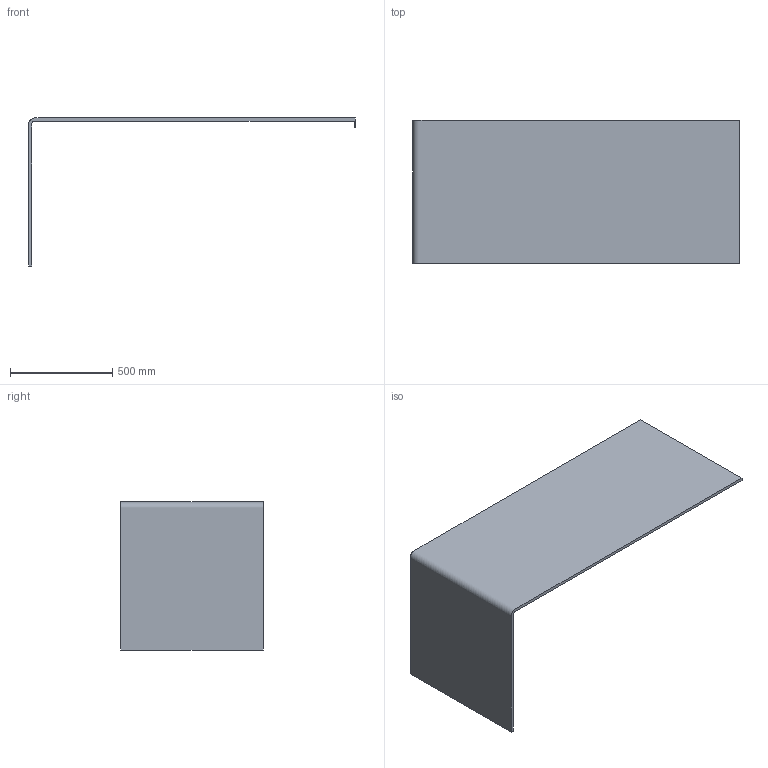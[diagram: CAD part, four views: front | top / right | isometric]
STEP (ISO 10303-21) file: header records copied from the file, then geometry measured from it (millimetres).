
FILE_DESCRIPTION(/* description */ (''),/* implementation_level */ '2;1');
FILE_NAME(/* name */ 'SW1670 - Rialto L parete 160x70',/* time_stamp */ '2012-06-20T17:34:55+02:00',/* author */ (''),/* organization */ (''),/* preprocessor_version */ 'ST-DEVELOPER v10',/* originating_system */ '',/* authorisation */ '');
FILE_SCHEMA (('CONFIG_CONTROL_DESIGN'));
Length unit declared in the file: millimetre
Products named in the file (1): 1
Bounding box: 1600 x 700 x 725 mm (x, y, z)
Volume: 19050821.6 mm3; surface area: 3358260.7 mm2
Topology: 2 solids, 2 shells, 18 faces, 42 edges, 28 vertices
Faces by surface type: plane 10, bspline 8
Entity records: 618 total; most frequent: CARTESIAN_POINT 252, ORIENTED_EDGE 84, EDGE_CURVE 42, VERTEX_POINT 28, B_SPLINE_CURVE_WITH_KNOTS 26, EDGE_LOOP 22, ADVANCED_FACE 18, FACE_OUTER_BOUND 18
